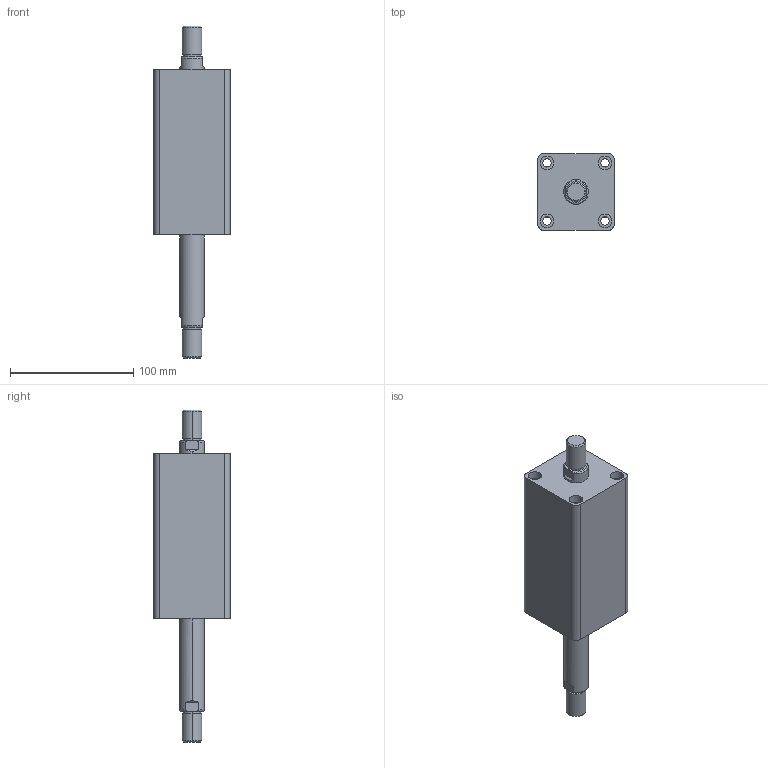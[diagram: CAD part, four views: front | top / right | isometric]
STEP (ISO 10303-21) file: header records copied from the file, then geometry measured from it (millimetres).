
FILE_DESCRIPTION (( 'STEP AP203' ), '1' );
FILE_NAME ('HTB-SW32-65W.STEP', '2019-10-07T08:55:56', ( '微软用户' ), ( '微软中国' ), 'SwSTEP 2.0', 'SolidWorks 2012', '' );
FILE_SCHEMA (( 'CONFIG_CONTROL_DESIGN' ));
Length unit declared in the file: millimetre
Products named in the file (3): HTB-SW32-65W; HTB-SW32-65W活塞杆; HTB-SW32-65掛极
Assembly tree (2 placements, depth 2):
  HTB-SW32-65W
    HTB-SW32-65掛极
    HTB-SW32-65W活塞杆
Bounding box: 62 x 62 x 269 mm (x, y, z)
Volume: 491821.3 mm3; surface area: 82703.5 mm2
Topology: 2 solids, 2 shells, 108 faces, 240 edges, 156 vertices
Faces by surface type: cylinder 52, plane 36, torus 12, cone 8
Entity records: 3449 total; most frequent: CARTESIAN_POINT 629, DIRECTION 586, ORIENTED_EDGE 480, AXIS2_PLACEMENT_3D 249, EDGE_CURVE 240, VERTEX_POINT 156, EDGE_LOOP 138, CIRCLE 136
